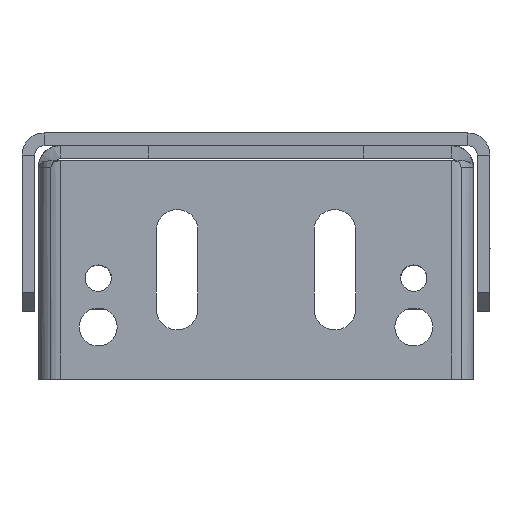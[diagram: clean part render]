
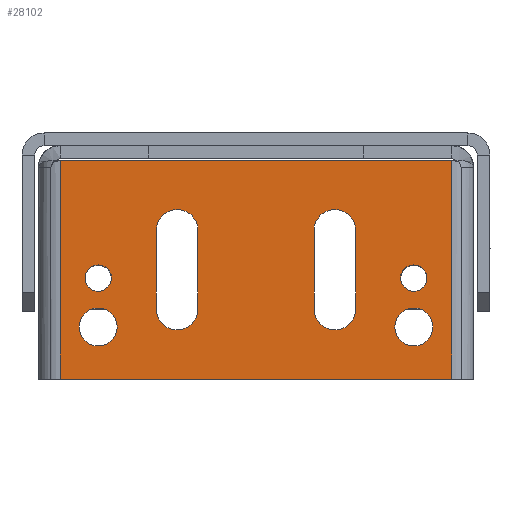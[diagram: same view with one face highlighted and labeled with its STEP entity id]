
A CAD part, left-side view. The second image highlights one B-rep face of the part: STEP entity #28102.
In plain terms, the highlighted planar face has unit normal (-1, 0, 0) as drawn and (0, 0, 1) by its records, which use the part's own axes.
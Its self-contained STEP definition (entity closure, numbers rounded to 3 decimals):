
#28102=ADVANCED_FACE('',(#53658,#53660,#53662,#53664,#53666,#53668,#53670),#53672,
.F.);
#53658=FACE_BOUND('',#53659,.T.);
#53659=EDGE_LOOP('',(#72025,#72026,#72027,#72028));
#53660=FACE_BOUND('',#53661,.T.);
#53661=EDGE_LOOP('',(#72029,#72030,#72031,#72032));
#53662=FACE_BOUND('',#53663,.T.);
#53663=EDGE_LOOP('',(#72033,#72034,#72035,#72036));
#53664=FACE_BOUND('',#53665,.T.);
#53665=EDGE_LOOP('',(#72037));
#53666=FACE_BOUND('',#53667,.T.);
#53667=EDGE_LOOP('',(#72038));
#53668=FACE_BOUND('',#53669,.T.);
#53669=EDGE_LOOP('',(#72039));
#53670=FACE_BOUND('',#53671,.T.);
#53671=EDGE_LOOP('',(#72040));
#53672=PLANE('',#53673);
#53673=AXIS2_PLACEMENT_3D('',#53674,#53675,#53676);
#53674=CARTESIAN_POINT('',(18.5,34.5,0.));
#53675=DIRECTION('',(0.,0.,-1.));
#53676=DIRECTION('',(-1.,0.,0.));
#72025=ORIENTED_EDGE('',*,*,#81129,.F.);
#72026=ORIENTED_EDGE('',*,*,#81130,.T.);
#72027=ORIENTED_EDGE('',*,*,#81131,.T.);
#72028=ORIENTED_EDGE('',*,*,#81132,.F.);
#72029=ORIENTED_EDGE('',*,*,#81133,.F.);
#72030=ORIENTED_EDGE('',*,*,#81134,.F.);
#72031=ORIENTED_EDGE('',*,*,#81135,.F.);
#72032=ORIENTED_EDGE('',*,*,#81034,.F.);
#72033=ORIENTED_EDGE('',*,*,#81136,.F.);
#72034=ORIENTED_EDGE('',*,*,#81137,.F.);
#72035=ORIENTED_EDGE('',*,*,#81138,.F.);
#72036=ORIENTED_EDGE('',*,*,#81038,.F.);
#72037=ORIENTED_EDGE('',*,*,#81073,.F.);
#72038=ORIENTED_EDGE('',*,*,#81075,.F.);
#72039=ORIENTED_EDGE('',*,*,#81077,.F.);
#72040=ORIENTED_EDGE('',*,*,#81079,.F.);
#81034=EDGE_CURVE('',#96146,#96148,#96149,.T.);
#81038=EDGE_CURVE('',#96154,#96156,#96157,.T.);
#81073=EDGE_CURVE('',#96221,#96221,#96222,.T.);
#81075=EDGE_CURVE('',#96225,#96225,#96226,.T.);
#81077=EDGE_CURVE('',#96229,#96229,#96230,.T.);
#81079=EDGE_CURVE('',#96233,#96233,#96234,.T.);
#81129=EDGE_CURVE('',#96323,#96324,#96325,.T.);
#81130=EDGE_CURVE('',#96323,#96326,#96327,.T.);
#81131=EDGE_CURVE('',#96326,#96328,#96329,.T.);
#81132=EDGE_CURVE('',#96324,#96328,#96330,.T.);
#81133=EDGE_CURVE('',#96331,#96146,#96332,.T.);
#81134=EDGE_CURVE('',#96333,#96331,#96334,.T.);
#81135=EDGE_CURVE('',#96148,#96333,#96335,.T.);
#81136=EDGE_CURVE('',#96336,#96154,#96337,.T.);
#81137=EDGE_CURVE('',#96338,#96336,#96339,.T.);
#81138=EDGE_CURVE('',#96156,#96338,#96340,.T.);
#96146=VERTEX_POINT('',#132438);
#96148=VERTEX_POINT('',#132442);
#96149=CIRCLE('',#132443,3.3);
#96154=VERTEX_POINT('',#132456);
#96156=VERTEX_POINT('',#132460);
#96157=CIRCLE('',#132461,3.3);
#96221=VERTEX_POINT('',#132625);
#96222=CIRCLE('',#132626,2.1);
#96225=VERTEX_POINT('',#132635);
#96226=CIRCLE('',#132636,3.);
#96229=VERTEX_POINT('',#132645);
#96230=CIRCLE('',#132646,2.1);
#96233=VERTEX_POINT('',#132655);
#96234=CIRCLE('',#132656,3.);
#96323=VERTEX_POINT('',#132849);
#96324=VERTEX_POINT('',#132850);
#96325=LINE('',#132851,#132852);
#96326=VERTEX_POINT('',#132854);
#96327=LINE('',#132855,#132856);
#96328=VERTEX_POINT('',#132858);
#96329=LINE('',#132859,#132860);
#96330=LINE('',#132862,#132863);
#96331=VERTEX_POINT('',#132865);
#96332=LINE('',#132866,#132867);
#96333=VERTEX_POINT('',#132869);
#96334=CIRCLE('',#132870,3.3);
#96335=LINE('',#132874,#132875);
#96336=VERTEX_POINT('',#132877);
#96337=LINE('',#132878,#132879);
#96338=VERTEX_POINT('',#132881);
#96339=CIRCLE('',#132882,3.3);
#96340=LINE('',#132886,#132887);
#132438=CARTESIAN_POINT('',(5.073,-15.8,0.));
#132442=CARTESIAN_POINT('',(5.073,-9.2,0.));
#132443=AXIS2_PLACEMENT_3D('',#132444,#132445,#132446);
#132444=CARTESIAN_POINT('',(5.073,-12.5,0.));
#132445=DIRECTION('',(0.,0.,1.));
#132446=DIRECTION('',(0.,-1.,0.));
#132456=CARTESIAN_POINT('',(5.073,9.2,0.));
#132460=CARTESIAN_POINT('',(5.073,15.8,0.));
#132461=AXIS2_PLACEMENT_3D('',#132462,#132463,#132464);
#132462=CARTESIAN_POINT('',(5.073,12.5,0.));
#132463=DIRECTION('',(0.,0.,1.));
#132464=DIRECTION('',(0.,-1.,0.));
#132625=CARTESIAN_POINT('',(-0.4,-25.,0.));
#132626=AXIS2_PLACEMENT_3D('',#132627,#132628,#132629);
#132627=CARTESIAN_POINT('',(-2.5,-25.,0.));
#132628=DIRECTION('',(0.,0.,1.));
#132629=DIRECTION('',(-1.,0.,0.));
#132635=CARTESIAN_POINT('',(-7.25,-25.,0.));
#132636=AXIS2_PLACEMENT_3D('',#132637,#132638,#132639);
#132637=CARTESIAN_POINT('',(-10.25,-25.,0.));
#132638=DIRECTION('',(0.,0.,1.));
#132639=DIRECTION('',(-1.,0.,0.));
#132645=CARTESIAN_POINT('',(-0.4,25.,0.));
#132646=AXIS2_PLACEMENT_3D('',#132647,#132648,#132649);
#132647=CARTESIAN_POINT('',(-2.5,25.,0.));
#132648=DIRECTION('',(0.,0.,1.));
#132649=DIRECTION('',(-1.,0.,0.));
#132655=CARTESIAN_POINT('',(-7.25,25.,0.));
#132656=AXIS2_PLACEMENT_3D('',#132657,#132658,#132659);
#132657=CARTESIAN_POINT('',(-10.25,25.,0.));
#132658=DIRECTION('',(0.,0.,1.));
#132659=DIRECTION('',(-1.,0.,0.));
#132849=CARTESIAN_POINT('',(16.146,31.,0.));
#132850=CARTESIAN_POINT('',(16.146,-31.,0.));
#132851=CARTESIAN_POINT('',(16.146,31.,0.));
#132852=VECTOR('',#132853,1.);
#132853=DIRECTION('',(0.,-1.,0.));
#132854=CARTESIAN_POINT('',(-18.5,31.,0.));
#132855=CARTESIAN_POINT('',(16.146,31.,0.));
#132856=VECTOR('',#132857,1.);
#132857=DIRECTION('',(-1.,0.,0.));
#132858=CARTESIAN_POINT('',(-18.5,-31.,0.));
#132859=CARTESIAN_POINT('',(-18.5,31.,0.));
#132860=VECTOR('',#132861,1.);
#132861=DIRECTION('',(0.,-1.,0.));
#132862=CARTESIAN_POINT('',(16.146,-31.,0.));
#132863=VECTOR('',#132864,1.);
#132864=DIRECTION('',(-1.,0.,0.));
#132865=CARTESIAN_POINT('',(-7.427,-15.8,0.));
#132866=CARTESIAN_POINT('',(-7.427,-15.8,0.));
#132867=VECTOR('',#132868,1.);
#132868=DIRECTION('',(1.,0.,0.));
#132869=CARTESIAN_POINT('',(-7.427,-9.2,0.));
#132870=AXIS2_PLACEMENT_3D('',#132871,#132872,#132873);
#132871=CARTESIAN_POINT('',(-7.427,-12.5,0.));
#132872=DIRECTION('',(0.,0.,1.));
#132873=DIRECTION('',(0.,1.,0.));
#132874=CARTESIAN_POINT('',(5.073,-9.2,0.));
#132875=VECTOR('',#132876,1.);
#132876=DIRECTION('',(-1.,0.,0.));
#132877=CARTESIAN_POINT('',(-7.427,9.2,0.));
#132878=CARTESIAN_POINT('',(-7.427,9.2,0.));
#132879=VECTOR('',#132880,1.);
#132880=DIRECTION('',(1.,0.,0.));
#132881=CARTESIAN_POINT('',(-7.427,15.8,0.));
#132882=AXIS2_PLACEMENT_3D('',#132883,#132884,#132885);
#132883=CARTESIAN_POINT('',(-7.427,12.5,0.));
#132884=DIRECTION('',(0.,0.,1.));
#132885=DIRECTION('',(0.,1.,0.));
#132886=CARTESIAN_POINT('',(5.073,15.8,0.));
#132887=VECTOR('',#132888,1.);
#132888=DIRECTION('',(-1.,0.,0.));
